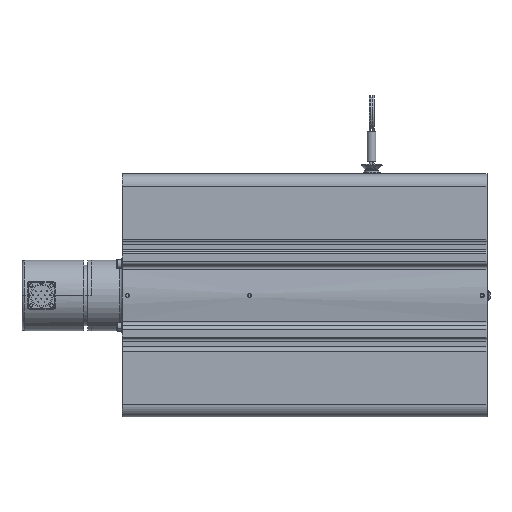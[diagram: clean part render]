
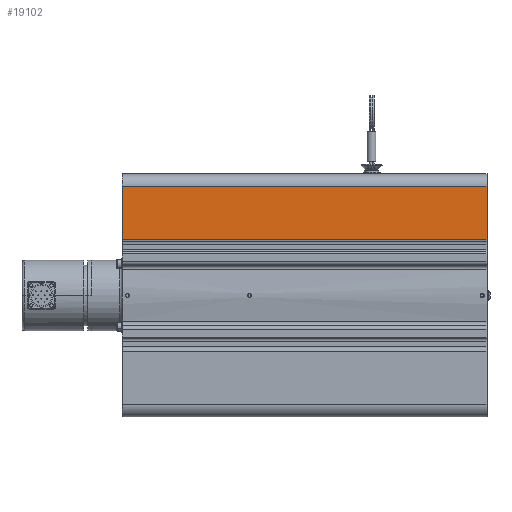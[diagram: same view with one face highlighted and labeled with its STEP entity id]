
A CAD part, front view. The second image highlights one B-rep face of the part: STEP entity #19102.
In plain terms, the highlighted planar face has unit normal (0, -1, 0).
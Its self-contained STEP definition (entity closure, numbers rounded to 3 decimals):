
#408=DIRECTION('',(0.,0.,1.));
#409=VECTOR('',#408,44.275);
#410=CARTESIAN_POINT('',(0.,-99.95,45.725));
#411=LINE('',#410,#409);
#5038=DIRECTION('',(1.,0.,0.));
#5039=VECTOR('',#5038,300.);
#5040=CARTESIAN_POINT('',(-300.,-99.95,45.725));
#5041=LINE('',#5040,#5039);
#5042=DIRECTION('',(0.,0.,1.));
#5043=VECTOR('',#5042,44.275);
#5044=CARTESIAN_POINT('',(-300.,-99.95,45.725));
#5045=LINE('',#5044,#5043);
#5050=DIRECTION('',(-1.,0.,0.));
#5051=VECTOR('',#5050,300.);
#5052=CARTESIAN_POINT('',(0.,-99.95,90.));
#5053=LINE('',#5052,#5051);
#12475=CARTESIAN_POINT('',(0.,-99.95,45.725));
#12476=VERTEX_POINT('',#12475);
#12477=CARTESIAN_POINT('',(0.,-99.95,90.));
#12478=VERTEX_POINT('',#12477);
#13153=CARTESIAN_POINT('',(-300.,-99.95,90.));
#13154=VERTEX_POINT('',#13153);
#13155=CARTESIAN_POINT('',(-300.,-99.95,45.725));
#13156=VERTEX_POINT('',#13155);
#19090=CARTESIAN_POINT('',(0.,-99.95,100.));
#19091=DIRECTION('',(0.,-1.,0.));
#19092=DIRECTION('',(0.,0.,-1.));
#19093=AXIS2_PLACEMENT_3D('',#19090,#19091,#19092);
#19094=PLANE('',#19093);
#19095=ORIENTED_EDGE('',*,*,#19085,.F.);
#19096=ORIENTED_EDGE('',*,*,#14162,.T.);
#19098=ORIENTED_EDGE('',*,*,#19097,.F.);
#19099=ORIENTED_EDGE('',*,*,#13504,.F.);
#19100=EDGE_LOOP('',(#19095,#19096,#19098,#19099));
#19101=FACE_OUTER_BOUND('',#19100,.F.);
#19102=ADVANCED_FACE('',(#19101),#19094,.T.);
#13504=EDGE_CURVE('',#12476,#12478,#411,.T.);
#14162=EDGE_CURVE('',#13156,#13154,#5045,.T.);
#19085=EDGE_CURVE('',#13156,#12476,#5041,.T.);
#19097=EDGE_CURVE('',#12478,#13154,#5053,.T.);
